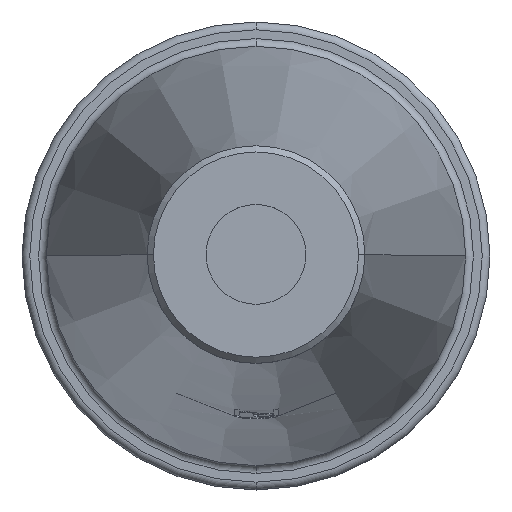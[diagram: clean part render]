
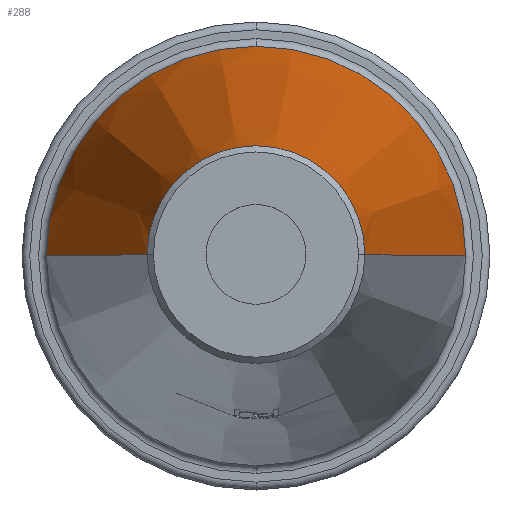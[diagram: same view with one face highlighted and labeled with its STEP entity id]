
A CAD part, top view. The second image highlights one B-rep face of the part: STEP entity #288.
In plain terms, the highlighted conical face has half-angle 7.768 degrees and reference radius 102.093 mm.
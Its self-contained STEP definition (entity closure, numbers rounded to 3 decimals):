
#288=ADVANCED_FACE('',(#599),#600,.T.);
#599=FACE_OUTER_BOUND('',#967,.T.);
#600=CONICAL_SURFACE('',#968,102.093,0.136);
#967=EDGE_LOOP('',(#1616,#1617,#1618,#1619,#1620));
#968=AXIS2_PLACEMENT_3D('',#1621,#1622,#1623);
#1616=ORIENTED_EDGE('',*,*,#2240,.T.);
#1617=ORIENTED_EDGE('',*,*,#2321,.F.);
#1618=ORIENTED_EDGE('',*,*,#2181,.F.);
#1619=ORIENTED_EDGE('',*,*,#2242,.T.);
#1620=ORIENTED_EDGE('',*,*,#2322,.T.);
#1621=CARTESIAN_POINT('',(255.517,286.617,255.217));
#1622=DIRECTION('',(0.,0.,-1.0));
#1623=DIRECTION('',(1.0,0.,0.));
#2181=EDGE_CURVE('',#2585,#2587,#2588,.T.);
#2240=EDGE_CURVE('',#2692,#2693,#2694,.T.);
#2242=EDGE_CURVE('',#2585,#2695,#2697,.T.);
#2321=EDGE_CURVE('',#2587,#2693,#2821,.T.);
#2322=EDGE_CURVE('',#2695,#2692,#2822,.T.);
#2585=VERTEX_POINT('',#3146);
#2587=VERTEX_POINT('',#3148);
#2588=CIRCLE('',#3149,134.41);
#2692=VERTEX_POINT('',#3607);
#2693=VERTEX_POINT('',#3608);
#2694=LINE('',#3609,#3610);
#2695=VERTEX_POINT('',#3611);
#2697=LINE('',#3613,#3614);
#2821=CIRCLE('',#4098,134.41);
#2822=CIRCLE('',#4099,69.775);
#3146=CARTESIAN_POINT('',(121.107,286.617,18.324));
#3148=CARTESIAN_POINT('',(255.517,421.027,18.324));
#3149=AXIS2_PLACEMENT_3D('',#4567,#4568,#4569);
#3607=CARTESIAN_POINT('',(325.292,286.617,492.111));
#3608=CARTESIAN_POINT('',(389.927,286.617,18.324));
#3609=CARTESIAN_POINT('',(357.61,286.617,255.217));
#3610=VECTOR('',#4639,1.0);
#3611=CARTESIAN_POINT('',(185.741,286.617,492.111));
#3613=CARTESIAN_POINT('',(153.424,286.617,255.217));
#3614=VECTOR('',#4643,1.0);
#4098=AXIS2_PLACEMENT_3D('',#4724,#4725,#4726);
#4099=AXIS2_PLACEMENT_3D('',#4727,#4728,#4729);
#4567=CARTESIAN_POINT('',(255.517,286.617,18.324));
#4568=DIRECTION('',(0.,0.,-1.0));
#4569=DIRECTION('',(1.0,0.,0.));
#4639=DIRECTION('',(0.135,0.,-0.991));
#4643=DIRECTION('',(0.135,0.,0.991));
#4724=CARTESIAN_POINT('',(255.517,286.617,18.324));
#4725=DIRECTION('',(0.,0.,-1.0));
#4726=DIRECTION('',(1.0,0.,0.));
#4727=CARTESIAN_POINT('',(255.517,286.617,492.111));
#4728=DIRECTION('',(0.,0.,-1.0));
#4729=DIRECTION('',(1.0,0.,0.));
